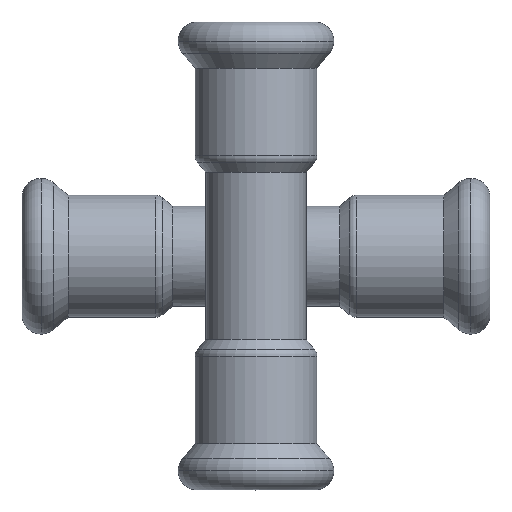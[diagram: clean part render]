
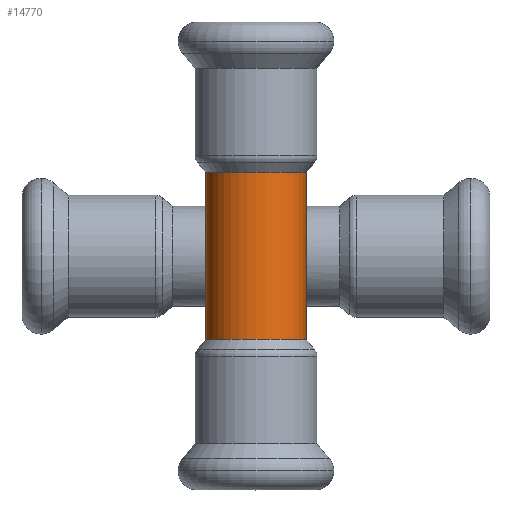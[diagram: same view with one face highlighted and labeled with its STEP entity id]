
A CAD part, top view. The second image highlights one B-rep face of the part: STEP entity #14770.
In plain terms, the highlighted cylindrical face has radius 7.5 mm (diameter 15 mm), a partial arc.
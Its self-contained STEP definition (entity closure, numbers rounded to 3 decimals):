
#3660=CARTESIAN_POINT('',(-103.693,38.909,
0.));
#3670=VERTEX_POINT('',#3660);
#3760=CARTESIAN_POINT('',(-88.693,38.909,0.));
#3770=VERTEX_POINT('',#3760);
#3800=CARTESIAN_POINT('',(-96.193,38.909,0.));
#3810=DIRECTION('',(0.,-1.,0.));
#3820=DIRECTION('',(1.,0.,0.));
#3830=AXIS2_PLACEMENT_3D('',#3800,#3810,#3820);
#3840=CIRCLE('',#3830,7.5);
#3850=EDGE_CURVE('',#3770,#3670,#3840,.T.);
#5850=CARTESIAN_POINT('',(-88.693,26.409,0.));
#5860=VERTEX_POINT('',#5850);
#5960=CARTESIAN_POINT('',(-103.693,26.409,
0.));
#5970=VERTEX_POINT('',#5960);
#11920=CARTESIAN_POINT('',(-103.693,13.909,0.));
#11930=VERTEX_POINT('',#11920);
#12110=CARTESIAN_POINT('',(-88.693,13.909,
0.));
#12120=VERTEX_POINT('',#12110);
#12150=CARTESIAN_POINT('',(-96.193,13.909,0.));
#12160=DIRECTION('',(0.,-1.,0.));
#12170=DIRECTION('',(1.,0.,0.));
#12180=AXIS2_PLACEMENT_3D('',#12150,#12160,#12170);
#12190=CIRCLE('',#12180,7.5);
#14510=CARTESIAN_POINT('',(-96.193,13.909,0.));
#14520=DIRECTION('',(0.,-1.,0.));
#14530=DIRECTION('',(1.,0.,0.));
#14540=AXIS2_PLACEMENT_3D('',#14510,#14520,#14530);
#14550=CYLINDRICAL_SURFACE('',#14540,7.5);
#14560=CARTESIAN_POINT('',(-88.693,13.909,0.));
#14570=DIRECTION('',(0.,-1.,0.));
#14580=VECTOR('',#14570,1.);
#14590=LINE('',#14560,#14580);
#14600=EDGE_CURVE('',#3770,#5860,#14590,.T.);
#14610=ORIENTED_EDGE('',*,*,#14600,.F.);
#14620=EDGE_CURVE('',#5860,#12120,#14590,.T.);
#14630=ORIENTED_EDGE('',*,*,#14620,.F.);
#14640=EDGE_CURVE('',#12120,#11930,#12190,.T.);
#14650=ORIENTED_EDGE('',*,*,#14640,.F.);
#14660=CARTESIAN_POINT('',(-103.693,13.909,
0.));
#14670=DIRECTION('',(0.,-1.,0.));
#14680=VECTOR('',#14670,1.);
#14690=LINE('',#14660,#14680);
#14700=EDGE_CURVE('',#5970,#11930,#14690,.T.);
#14710=ORIENTED_EDGE('',*,*,#14700,.T.);
#14720=EDGE_CURVE('',#3670,#5970,#14690,.T.);
#14730=ORIENTED_EDGE('',*,*,#14720,.T.);
#14740=ORIENTED_EDGE('',*,*,#3850,.T.);
#14750=EDGE_LOOP('',(#14740,#14730,#14710,#14650,#14630,#14610));
#14760=FACE_OUTER_BOUND('',#14750,.T.);
#14770=ADVANCED_FACE('',(#14760),#14550,.T.);
